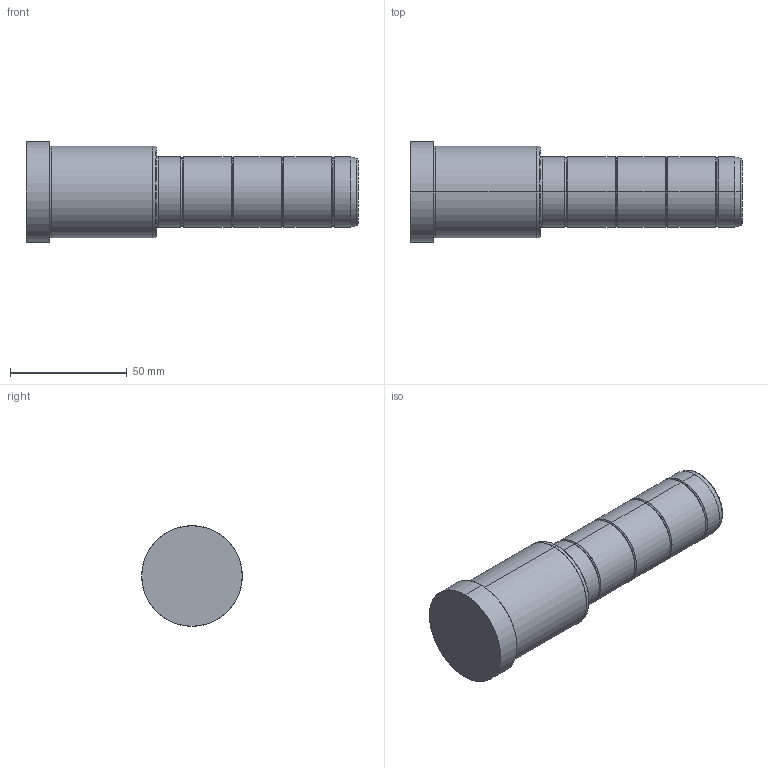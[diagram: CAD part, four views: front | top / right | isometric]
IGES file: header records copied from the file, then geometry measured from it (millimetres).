
Start section: SolidWorks IGES file using analytic representation for surfaces
Global section: file name: C:\Documents and Settings\kalite-mail\Desktop\IGS\D02\30\D02 - 30x56x86.IGS; native system: SolidWorks 2008; preprocessor: SolidWorks 2008; author: kalite-mail; date: 080617.091347; units: millimetre
Bounding box: 142 x 43 x 43 mm (x, y, z)
Surface area: 18056.1 mm2 (no closed solid volume)
Topology: 0 solids, 0 shells, 48 faces, 776 edges, 776 vertices
Faces by surface type: bspline 26, revolution 22
